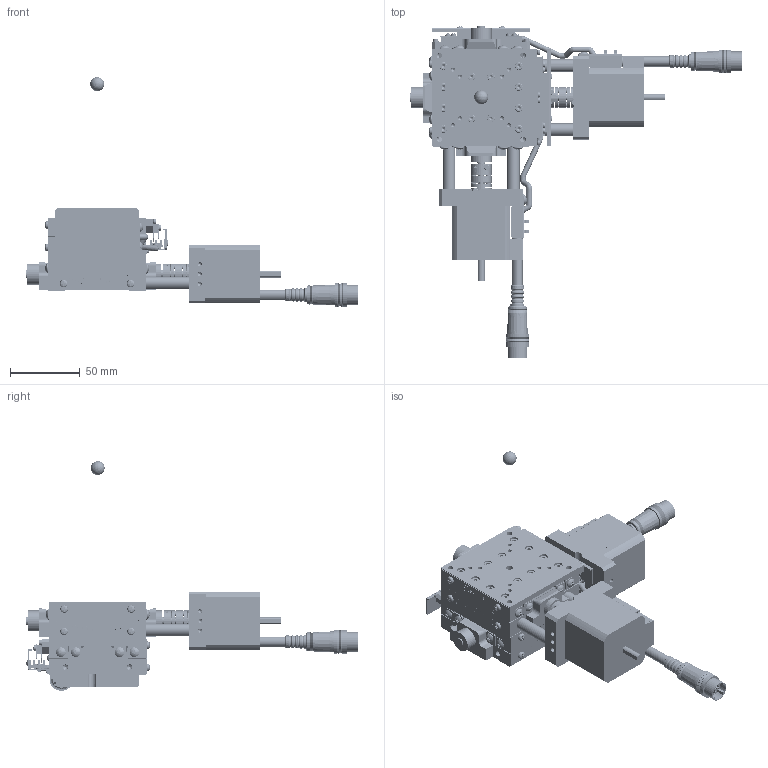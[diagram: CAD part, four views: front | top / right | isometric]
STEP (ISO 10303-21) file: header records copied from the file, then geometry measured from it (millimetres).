
FILE_DESCRIPTION (( 'STEP AP203' ), '1' );
FILE_NAME ('SA07A-RL02.STEP', '2019-02-27T04:07:08', ( '' ), ( '' ), 'SwSTEP 2.0', 'SolidWorks 2018', '' );
FILE_SCHEMA (( 'CONFIG_CONTROL_DESIGN' ));
Length unit declared in the file: millimetre
Products named in the file (12): base-Part-2; second table-Part-2; second table-Part-1; rotation center; second table; table; base-Part-3; base-Part-4; second table-Part-3; base-Part-1; base; SA07A-RL02
Assembly tree (11 placements, depth 3):
  SA07A-RL02
    second table
      second table-Part-1
      second table-Part-2
      second table-Part-3
    base
      base-Part-1
      base-Part-2
      base-Part-3
      base-Part-4
    rotation center
    table
Bounding box: 238 x 237.68 x 164.65 mm (x, y, z)
Volume: 503088.1 mm3; surface area: 146196.9 mm2
Topology: 9 solids, 9 shells, 5387 faces, 13685 edges, 8519 vertices
Faces by surface type: plane 3205, cylinder 1346, cone 578, torus 150, sphere 96, bspline 12
Entity records: 165435 total; most frequent: CARTESIAN_POINT 31755, DIRECTION 28736, ORIENTED_EDGE 26960, EDGE_CURVE 13480, AXIS2_PLACEMENT_3D 10144, VERTEX_POINT 8504, LINE 8448, VECTOR 8448
